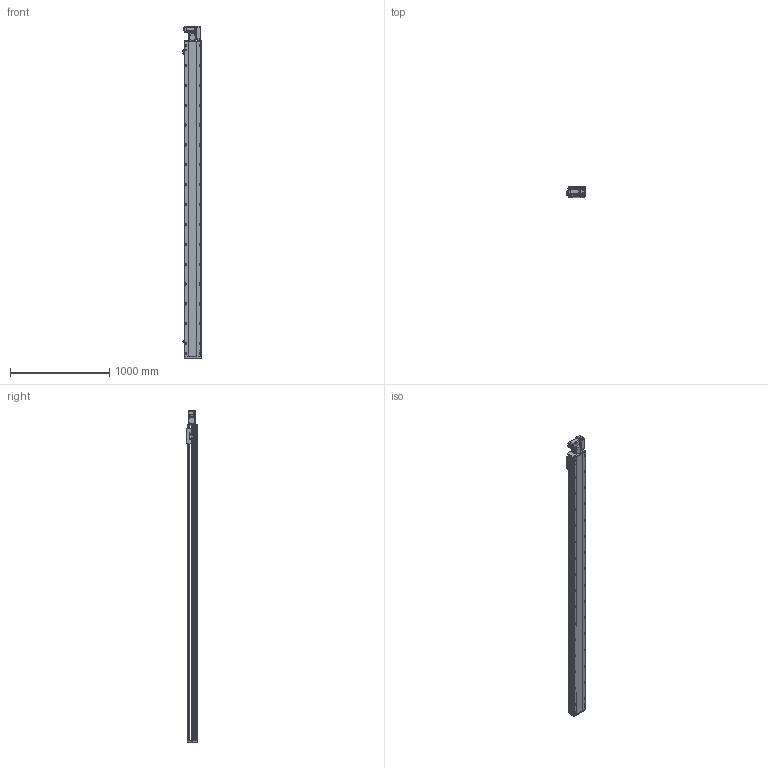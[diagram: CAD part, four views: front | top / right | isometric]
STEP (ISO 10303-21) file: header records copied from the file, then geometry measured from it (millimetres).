
FILE_DESCRIPTION (( 'STEP AP214' ), '1' );
FILE_NAME ('RTB17S-XX-2900-R-M40-C4.STEP', '2025-12-11T07:56:04', ( '' ), ( '' ), 'SwSTEP 2.0', 'SolidWorks 2018', '' );
FILE_SCHEMA (( 'AUTOMOTIVE_DESIGN' ));
Length unit declared in the file: millimetre
Products named in the file (14): RTB17S-R-々湍釱蚾饜-400W^RTB17S-XX-XX-R-M40-C4; RTB17S-L-004佪裝蹟譫蟀諉釱^RTB17S-XX-XX-R-M40-C4; RTB17S-XX-2900-R-M40-C4; RTB17S-L-001耜醱啣^RTB17S-XX-XX-R-M40-C4; RTB14-L-008-M20--萇儂啣^RTB17S-R-々湍釱蚾饜-400W_RTB17S-XX-XX-R-M40-C4; 400W侜督萇儂^RTB17S-XX-XX-R-M40-C4; RTB14-L-005P--轴承塑胶压盖^RTB17S-R-皮带座装配-400W_RTB17S-XX-XX-R-M40-C4; OMRON EE-SX672 传感器^RTB17S-XX-XX-R-M40-C4; RTB14-L-018P^RTB17S-R-々湍釱蚾饜-400W_RTB17S-XX-XX-R-M40-C4; RTB17-R-011菁釱^RTB17S-XX-XX-R-M40-C4; RTB14-L-017P^RTB17S-R-々湍釱蚾饜-400W_RTB17S-XX-XX-R-M40-C4; RTH13-BL-012覜茼え俋离^RTB17S-XX-XX-R-M40-C4; RTB17S-L-014-T20--々湍釱^RTB17S-R-々湍釱蚾饜-400W_RTB17S-XX-XX-R-M40-C4; RTB17S-L-007奻裔^RTB17S-XX-XX-R-M40-C4
Assembly tree (16 placements, depth 3):
  RTB17S-XX-2900-R-M40-C4
    RTB17-R-011菁釱^RTB17S-XX-XX-R-M40-C4
    RTB17S-L-007奻裔^RTB17S-XX-XX-R-M40-C4
    OMRON EE-SX672 传感器^RTB17S-XX-XX-R-M40-C4  x3
    RTB17S-L-001耜醱啣^RTB17S-XX-XX-R-M40-C4
    400W侜督萇儂^RTB17S-XX-XX-R-M40-C4
    RTB17S-L-004佪裝蹟譫蟀諉釱^RTB17S-XX-XX-R-M40-C4
    RTH13-BL-012覜茼え俋离^RTB17S-XX-XX-R-M40-C4
    RTB17S-R-々湍釱蚾饜-400W^RTB17S-XX-XX-R-M40-C4
      RTB17S-L-014-T20--々湍釱^RTB17S-R-々湍釱蚾饜-400W_RTB17S-XX-XX-R-M40-C4
      RTB14-L-005P--轴承塑胶压盖^RTB17S-R-皮带座装配-400W_RTB17S-XX-XX-R-M40-C4
      RTB14-L-008-M20--萇儂啣^RTB17S-R-々湍釱蚾饜-400W_RTB17S-XX-XX-R-M40-C4
      RTB14-L-017P^RTB17S-R-々湍釱蚾饜-400W_RTB17S-XX-XX-R-M40-C4  x2
      RTB14-L-018P^RTB17S-R-々湍釱蚾饜-400W_RTB17S-XX-XX-R-M40-C4
Bounding box: 183.5 x 108 x 3341 mm (x, y, z)
Volume: 27866063.4 mm3; surface area: 3188617.8 mm2
Topology: 15 solids, 15 shells, 2365 faces, 6627 edges, 4329 vertices
Faces by surface type: plane 1088, cylinder 829, bspline 301, cone 139, torus 8
Entity records: 70313 total; most frequent: CARTESIAN_POINT 20032, ORIENTED_EDGE 10098, DIRECTION 9296, EDGE_CURVE 5049, VERTEX_POINT 3317, AXIS2_PLACEMENT_3D 3247, VECTOR 2802, LINE 2802
